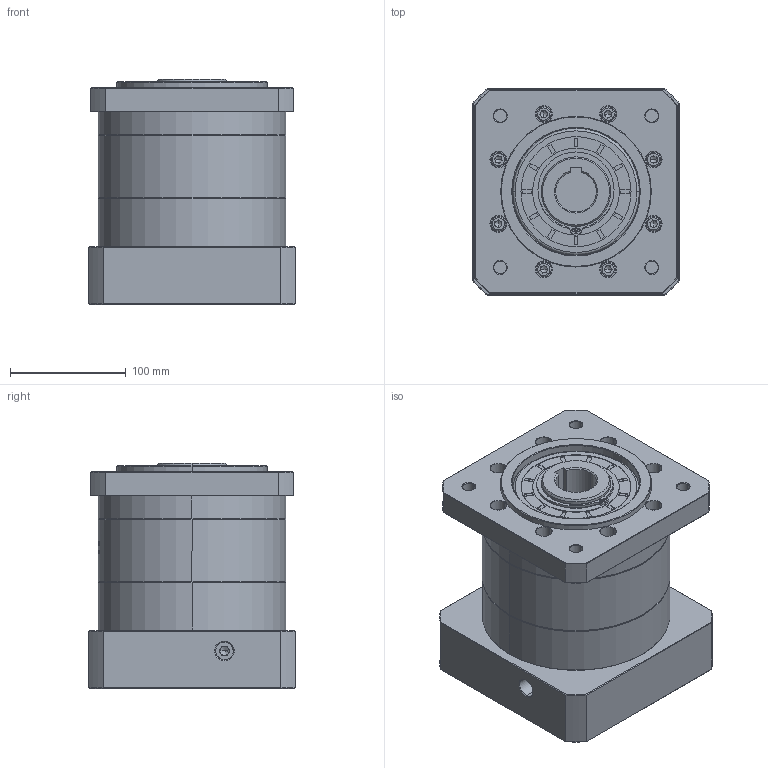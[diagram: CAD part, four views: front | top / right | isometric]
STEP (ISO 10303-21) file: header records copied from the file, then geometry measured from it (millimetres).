
FILE_DESCRIPTION (( 'STEP AP214' ), '1' );
FILE_NAME ('ZF160-K35-L1-35-114.3-200-M12.step', '2023-03-21T04:31:56', ( '' ), ( '' ), 'SwSTEP 2.0', 'SolidWorks 2016', '' );
FILE_SCHEMA (( 'AUTOMOTIVE_DESIGN' ));
Length unit declared in the file: millimetre
Products named in the file (1): ZF160-K35-L1-35-114.3-200-M12
Bounding box: 178 x 178 x 194.2 mm (x, y, z)
Volume: 3889201.8 mm3; surface area: 369302.7 mm2
Topology: 6 solids, 6 shells, 1731 faces, 4472 edges, 2852 vertices
Faces by surface type: plane 727, cylinder 414, cone 359, bspline 211, torus 20
Entity records: 93452 total; most frequent: CARTESIAN_POINT 34042, ORIENTED_EDGE 8888, DIRECTION 7783, EDGE_CURVE 4444, VERTEX_POINT 2852, AXIS2_PLACEMENT_3D 2691, LINE 2401, VECTOR 2401
